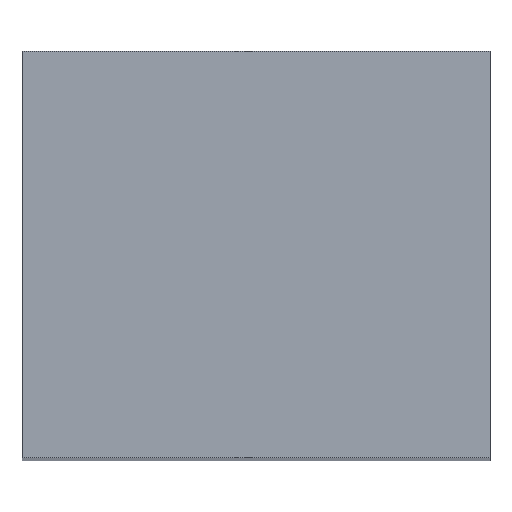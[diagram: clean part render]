
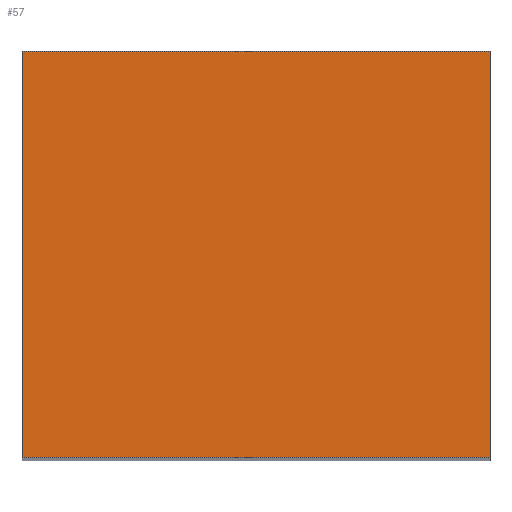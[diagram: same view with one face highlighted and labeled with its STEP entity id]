
A CAD part, top view. The second image highlights one B-rep face of the part: STEP entity #57.
In plain terms, the highlighted planar face has unit normal (0, 0, 1).
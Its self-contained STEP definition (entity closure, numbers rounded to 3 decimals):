
#57=ADVANCED_FACE('',(#63),#99,.T.);
#63=FACE_OUTER_BOUND('',#69,.F.);
#69=EDGE_LOOP('',(#84,#85,#86,#87));
#84=ORIENTED_EDGE('',*,*,#103,.F.);
#85=ORIENTED_EDGE('',*,*,#111,.F.);
#86=ORIENTED_EDGE('',*,*,#107,.T.);
#87=ORIENTED_EDGE('',*,*,#110,.T.);
#99=PLANE('',#151);
#103=EDGE_CURVE('',#143,#145,#115,.T.);
#107=EDGE_CURVE('',#139,#141,#119,.T.);
#110=EDGE_CURVE('',#141,#145,#122,.T.);
#111=EDGE_CURVE('',#139,#143,#123,.T.);
#115=LINE('',#193,#127);
#119=LINE('',#197,#131);
#122=LINE('',#200,#134);
#123=LINE('',#201,#135);
#127=VECTOR('',#158,46.);
#131=VECTOR('',#162,46.);
#134=VECTOR('',#165,40.);
#135=VECTOR('',#166,40.);
#139=VERTEX_POINT('',#185);
#141=VERTEX_POINT('',#187);
#143=VERTEX_POINT('',#189);
#145=VERTEX_POINT('',#191);
#151=AXIS2_PLACEMENT_3D('',#207,#175,#176);
#158=DIRECTION('',(-1.,0.,0.));
#162=DIRECTION('',(-1.,0.,0.));
#165=DIRECTION('',(0.,1.,0.));
#166=DIRECTION('',(0.,1.,0.));
#175=DIRECTION('',(0.,0.,1.));
#176=DIRECTION('',(-1.,0.,0.));
#185=CARTESIAN_POINT('',(-526.626,383.75,1680.666));
#187=CARTESIAN_POINT('',(-572.626,383.75,1680.666));
#189=CARTESIAN_POINT('',(-526.626,423.75,1680.666));
#191=CARTESIAN_POINT('',(-572.626,423.75,1680.666));
#193=CARTESIAN_POINT('',(-526.626,423.75,1680.666));
#197=CARTESIAN_POINT('',(-526.626,383.75,1680.666));
#200=CARTESIAN_POINT('',(-572.626,383.75,1680.666));
#201=CARTESIAN_POINT('',(-526.626,383.75,1680.666));
#207=CARTESIAN_POINT('',(-526.166,424.21,1680.666));
